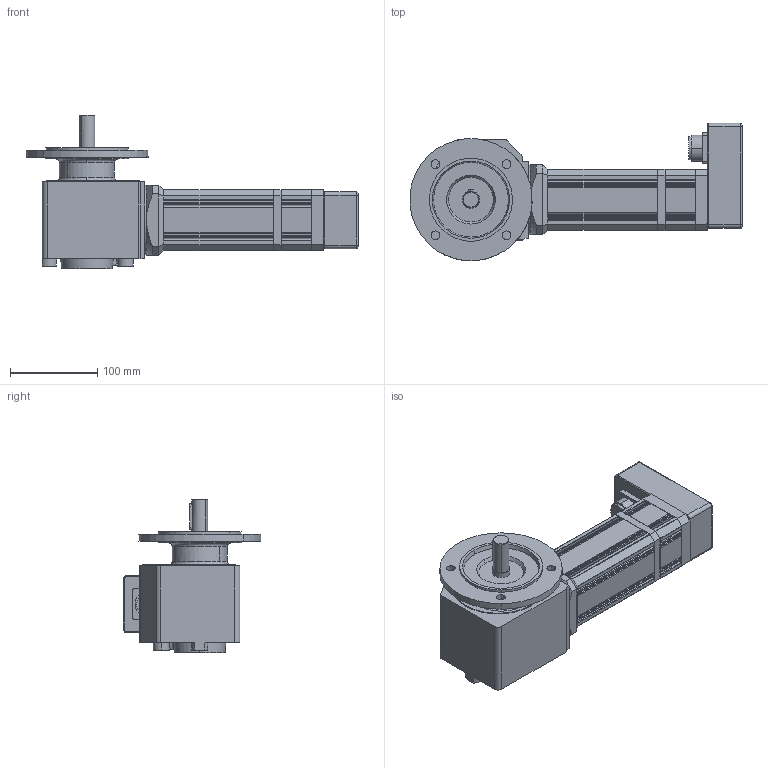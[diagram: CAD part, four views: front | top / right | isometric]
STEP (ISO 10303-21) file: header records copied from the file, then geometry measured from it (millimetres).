
FILE_DESCRIPTION(('OneSpaceDesigner STEP Export'),'2;1');
FILE_NAME('UECG313THL_ZF45.stp','2009-04-01T15:15:00',(''),(''),'OneSpace Designer STEP processor (Jan. 2003) for AP214(CD)(Solid Model)','OneSpace Designer 12.01D 09-Jul-2004 (C) CoCreate Software GmbH','');
FILE_SCHEMA(('AUTOMOTIVE_DESIGN_CC2 {1 2 10303 214 -1 1 5 1}'));
Length unit declared in the file: millimetre
Products named in the file (3): UECG313THL_ZF45_F; UECG313THL_ZF45.stp
Assembly tree (2 placements, depth 3):
  UECG313THL_ZF45.stp
    UECG313THL_ZF45_F
      UECG313THL_ZF45_F
Bounding box: 379.73 x 157.31 x 175.5 mm (x, y, z)
Volume: 2671710.7 mm3; surface area: 206004.4 mm2
Topology: 1 solids, 1 shells, 445 faces, 1193 edges, 771 vertices
Faces by surface type: plane 226, cylinder 185, torus 12, bspline 12, cone 10
Entity records: 19524 total; most frequent: CARTESIAN_POINT 8961, ORIENTED_EDGE 2386, DIRECTION 2016, EDGE_CURVE 1193, VERTEX_POINT 771, VECTOR 678, LINE 678, AXIS2_PLACEMENT_3D 669
